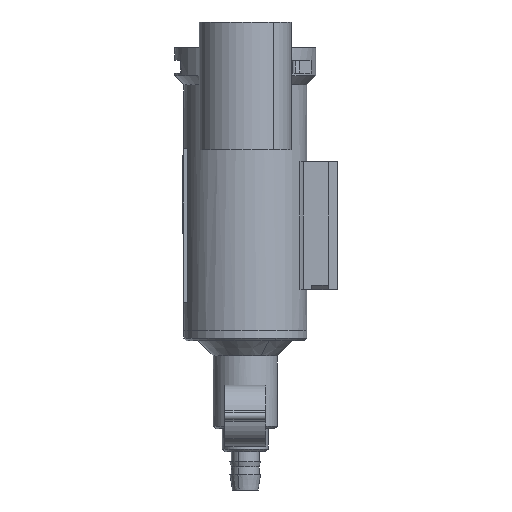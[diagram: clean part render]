
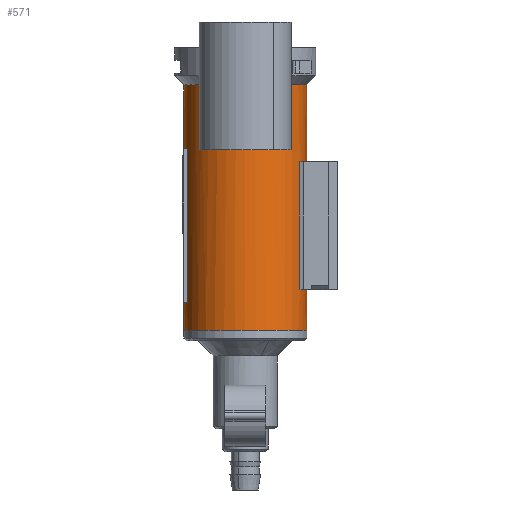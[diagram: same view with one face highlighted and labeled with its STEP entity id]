
A CAD part, front view. The second image highlights one B-rep face of the part: STEP entity #571.
In plain terms, the highlighted cylindrical face has radius 12 mm (diameter 24 mm), a partial arc.
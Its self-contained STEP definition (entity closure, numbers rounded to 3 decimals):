
#393=AXIS2_PLACEMENT_3D('Circle Axis2P3D',#391,#392,$) ;
#429=AXIS2_PLACEMENT_3D('Cylinder Axis2P3D',#426,#427,#428) ;
#442=AXIS2_PLACEMENT_3D('Circle Axis2P3D',#440,#441,$) ;
#456=AXIS2_PLACEMENT_3D('Circle Axis2P3D',#454,#455,$) ;
#463=AXIS2_PLACEMENT_3D('Circle Axis2P3D',#461,#462,$) ;
#477=AXIS2_PLACEMENT_3D('Circle Axis2P3D',#475,#476,$) ;
#491=AXIS2_PLACEMENT_3D('Circle Axis2P3D',#489,#490,$) ;
#505=AXIS2_PLACEMENT_3D('Circle Axis2P3D',#503,#504,$) ;
#519=AXIS2_PLACEMENT_3D('Circle Axis2P3D',#517,#518,$) ;
#539=AXIS2_PLACEMENT_3D('Circle Axis2P3D',#537,#538,$) ;
#553=AXIS2_PLACEMENT_3D('Circle Axis2P3D',#551,#552,$) ;
#560=AXIS2_PLACEMENT_3D('Circle Axis2P3D',#558,#559,$) ;
#109=CARTESIAN_POINT('Vertex',(11.715,-2.6,10.)) ;
#112=CARTESIAN_POINT('Line Origine',(11.715,-2.6,22.5)) ;
#116=CARTESIAN_POINT('Vertex',(11.715,-2.6,35.)) ;
#388=CARTESIAN_POINT('Vertex',(11.314,-4.,10.)) ;
#391=CARTESIAN_POINT('Axis2P3D Location',(0.,0.,10.)) ;
#426=CARTESIAN_POINT('Axis2P3D Location',(0.,0.,26.15)) ;
#431=CARTESIAN_POINT('Line Origine',(-12.,0.,26.15)) ;
#435=CARTESIAN_POINT('Vertex',(-12.,0.,2.)) ;
#437=CARTESIAN_POINT('Vertex',(-12.,0.,7.5)) ;
#440=CARTESIAN_POINT('Axis2P3D Location',(0.,0.,2.)) ;
#444=CARTESIAN_POINT('Vertex',(12.,0.,2.)) ;
#447=CARTESIAN_POINT('Line Origine',(12.,0.,26.15)) ;
#451=CARTESIAN_POINT('Vertex',(12.,0.,50.)) ;
#454=CARTESIAN_POINT('Axis2P3D Location',(0.,0.,50.)) ;
#458=CARTESIAN_POINT('Vertex',(6.,-10.392,50.)) ;
#461=CARTESIAN_POINT('Axis2P3D Location',(0.,0.,50.)) ;
#465=CARTESIAN_POINT('Vertex',(5.5,-10.665,50.)) ;
#468=CARTESIAN_POINT('Line Origine',(5.5,-10.665,26.15)) ;
#472=CARTESIAN_POINT('Vertex',(5.5,-10.665,37.3)) ;
#475=CARTESIAN_POINT('Axis2P3D Location',(0.,0.,37.3)) ;
#479=CARTESIAN_POINT('Vertex',(-5.5,-10.665,37.3)) ;
#482=CARTESIAN_POINT('Line Origine',(-5.5,-10.665,26.15)) ;
#486=CARTESIAN_POINT('Vertex',(-5.5,-10.665,50.)) ;
#489=CARTESIAN_POINT('Axis2P3D Location',(0.,0.,50.)) ;
#493=CARTESIAN_POINT('Vertex',(-12.,0.,50.)) ;
#496=CARTESIAN_POINT('Line Origine',(-12.,0.,26.15)) ;
#500=CARTESIAN_POINT('Vertex',(-12.,0.,37.5)) ;
#503=CARTESIAN_POINT('Axis2P3D Location',(0.,0.,37.5)) ;
#507=CARTESIAN_POINT('Vertex',(-11.314,-4.,37.5)) ;
#510=CARTESIAN_POINT('Line Origine',(-11.314,-4.,26.15)) ;
#514=CARTESIAN_POINT('Vertex',(-11.314,-4.,7.5)) ;
#517=CARTESIAN_POINT('Axis2P3D Location',(0.,0.,7.5)) ;
#537=CARTESIAN_POINT('Axis2P3D Location',(0.,0.,10.)) ;
#541=CARTESIAN_POINT('Vertex',(10.665,-5.5,10.)) ;
#544=CARTESIAN_POINT('Line Origine',(10.665,-5.5,26.15)) ;
#548=CARTESIAN_POINT('Vertex',(10.665,-5.5,35.)) ;
#551=CARTESIAN_POINT('Axis2P3D Location',(0.,0.,35.)) ;
#555=CARTESIAN_POINT('Vertex',(11.314,-4.,35.)) ;
#558=CARTESIAN_POINT('Axis2P3D Location',(0.,0.,35.)) ;
#113=DIRECTION('Vector Direction',(0.,0.,1.)) ;
#392=DIRECTION('Axis2P3D Direction',(0.,0.,1.)) ;
#427=DIRECTION('Axis2P3D Direction',(0.,0.,1.)) ;
#428=DIRECTION('Axis2P3D XDirection',(-1.,0.,0.)) ;
#432=DIRECTION('Vector Direction',(0.,0.,1.)) ;
#441=DIRECTION('Axis2P3D Direction',(0.,0.,1.)) ;
#448=DIRECTION('Vector Direction',(0.,0.,1.)) ;
#455=DIRECTION('Axis2P3D Direction',(0.,0.,1.)) ;
#462=DIRECTION('Axis2P3D Direction',(0.,0.,1.)) ;
#469=DIRECTION('Vector Direction',(0.,0.,1.)) ;
#476=DIRECTION('Axis2P3D Direction',(0.,0.,1.)) ;
#483=DIRECTION('Vector Direction',(0.,0.,1.)) ;
#490=DIRECTION('Axis2P3D Direction',(0.,0.,1.)) ;
#497=DIRECTION('Vector Direction',(0.,0.,1.)) ;
#504=DIRECTION('Axis2P3D Direction',(0.,0.,1.)) ;
#511=DIRECTION('Vector Direction',(0.,0.,1.)) ;
#518=DIRECTION('Axis2P3D Direction',(0.,0.,1.)) ;
#538=DIRECTION('Axis2P3D Direction',(0.,0.,1.)) ;
#545=DIRECTION('Vector Direction',(0.,0.,1.)) ;
#552=DIRECTION('Axis2P3D Direction',(0.,0.,1.)) ;
#559=DIRECTION('Axis2P3D Direction',(0.,0.,1.)) ;
#114=VECTOR('Line Direction',#113,1.) ;
#433=VECTOR('Line Direction',#432,1.) ;
#449=VECTOR('Line Direction',#448,1.) ;
#470=VECTOR('Line Direction',#469,1.) ;
#484=VECTOR('Line Direction',#483,1.) ;
#498=VECTOR('Line Direction',#497,1.) ;
#512=VECTOR('Line Direction',#511,1.) ;
#546=VECTOR('Line Direction',#545,1.) ;
#523=ORIENTED_EDGE('',*,*,#439,.F.) ;
#524=ORIENTED_EDGE('',*,*,#446,.F.) ;
#525=ORIENTED_EDGE('',*,*,#453,.T.) ;
#526=ORIENTED_EDGE('',*,*,#460,.T.) ;
#527=ORIENTED_EDGE('',*,*,#467,.T.) ;
#528=ORIENTED_EDGE('',*,*,#474,.T.) ;
#529=ORIENTED_EDGE('',*,*,#481,.F.) ;
#530=ORIENTED_EDGE('',*,*,#488,.F.) ;
#531=ORIENTED_EDGE('',*,*,#495,.T.) ;
#532=ORIENTED_EDGE('',*,*,#502,.F.) ;
#533=ORIENTED_EDGE('',*,*,#509,.F.) ;
#534=ORIENTED_EDGE('',*,*,#516,.F.) ;
#535=ORIENTED_EDGE('',*,*,#521,.T.) ;
#564=ORIENTED_EDGE('',*,*,#395,.T.) ;
#565=ORIENTED_EDGE('',*,*,#543,.F.) ;
#566=ORIENTED_EDGE('',*,*,#550,.T.) ;
#567=ORIENTED_EDGE('',*,*,#557,.T.) ;
#568=ORIENTED_EDGE('',*,*,#562,.F.) ;
#569=ORIENTED_EDGE('',*,*,#118,.F.) ;
#570=FACE_BOUND('',#563,.T.) ;
#571=ADVANCED_FACE('\X2\96F64EF651E04F554F53\X0\',(#536,#570),#430,.T.) ;
#394=CIRCLE('generated circle',#393,12.) ;
#443=CIRCLE('generated circle',#442,12.) ;
#457=CIRCLE('generated circle',#456,12.) ;
#464=CIRCLE('generated circle',#463,12.) ;
#478=CIRCLE('generated circle',#477,12.) ;
#492=CIRCLE('generated circle',#491,12.) ;
#506=CIRCLE('generated circle',#505,12.) ;
#520=CIRCLE('generated circle',#519,12.) ;
#540=CIRCLE('generated circle',#539,12.) ;
#554=CIRCLE('generated circle',#553,12.) ;
#561=CIRCLE('generated circle',#560,12.) ;
#430=CYLINDRICAL_SURFACE('generated cylinder',#429,12.) ;
#118=EDGE_CURVE('',#110,#117,#115,.T.) ;
#395=EDGE_CURVE('',#110,#389,#394,.F.) ;
#439=EDGE_CURVE('',#436,#438,#434,.T.) ;
#446=EDGE_CURVE('',#445,#436,#443,.F.) ;
#453=EDGE_CURVE('',#445,#452,#450,.T.) ;
#460=EDGE_CURVE('',#452,#459,#457,.F.) ;
#467=EDGE_CURVE('',#459,#466,#464,.F.) ;
#474=EDGE_CURVE('',#466,#473,#471,.F.) ;
#481=EDGE_CURVE('',#480,#473,#478,.T.) ;
#488=EDGE_CURVE('',#487,#480,#485,.F.) ;
#495=EDGE_CURVE('',#487,#494,#492,.F.) ;
#502=EDGE_CURVE('',#501,#494,#499,.T.) ;
#509=EDGE_CURVE('',#508,#501,#506,.F.) ;
#516=EDGE_CURVE('',#515,#508,#513,.T.) ;
#521=EDGE_CURVE('',#515,#438,#520,.F.) ;
#543=EDGE_CURVE('',#542,#389,#540,.T.) ;
#550=EDGE_CURVE('',#542,#549,#547,.T.) ;
#557=EDGE_CURVE('',#549,#556,#554,.T.) ;
#562=EDGE_CURVE('',#117,#556,#561,.F.) ;
#522=EDGE_LOOP('',(#523,#524,#525,#526,#527,#528,#529,#530,#531,#532,#533,#534,#535)) ;
#563=EDGE_LOOP('',(#564,#565,#566,#567,#568,#569)) ;
#536=FACE_OUTER_BOUND('',#522,.T.) ;
#115=LINE('Line',#112,#114) ;
#434=LINE('Line',#431,#433) ;
#450=LINE('Line',#447,#449) ;
#471=LINE('Line',#468,#470) ;
#485=LINE('Line',#482,#484) ;
#499=LINE('Line',#496,#498) ;
#513=LINE('Line',#510,#512) ;
#547=LINE('Line',#544,#546) ;
#110=VERTEX_POINT('',#109) ;
#117=VERTEX_POINT('',#116) ;
#389=VERTEX_POINT('',#388) ;
#436=VERTEX_POINT('',#435) ;
#438=VERTEX_POINT('',#437) ;
#445=VERTEX_POINT('',#444) ;
#452=VERTEX_POINT('',#451) ;
#459=VERTEX_POINT('',#458) ;
#466=VERTEX_POINT('',#465) ;
#473=VERTEX_POINT('',#472) ;
#480=VERTEX_POINT('',#479) ;
#487=VERTEX_POINT('',#486) ;
#494=VERTEX_POINT('',#493) ;
#501=VERTEX_POINT('',#500) ;
#508=VERTEX_POINT('',#507) ;
#515=VERTEX_POINT('',#514) ;
#542=VERTEX_POINT('',#541) ;
#549=VERTEX_POINT('',#548) ;
#556=VERTEX_POINT('',#555) ;
